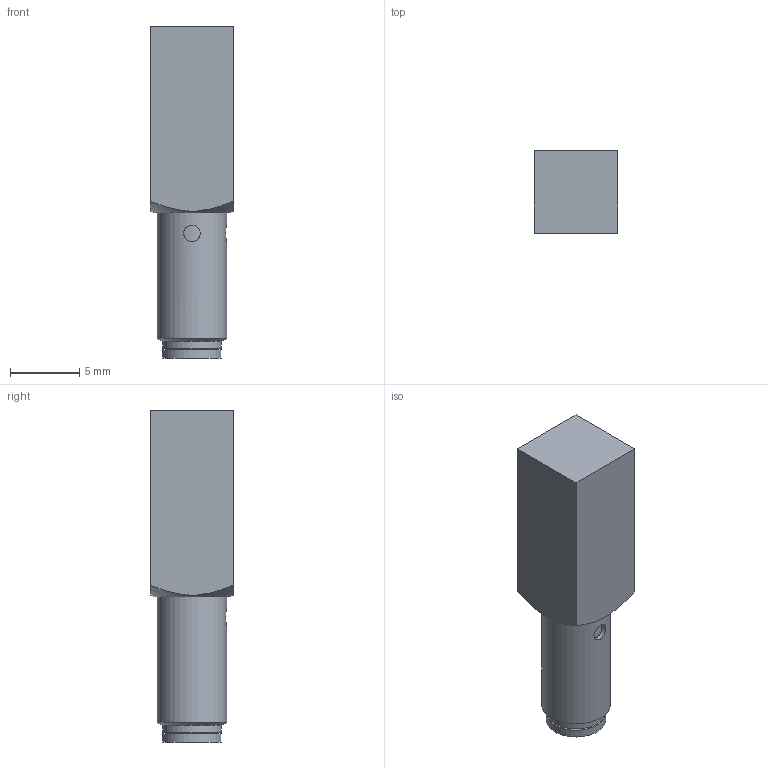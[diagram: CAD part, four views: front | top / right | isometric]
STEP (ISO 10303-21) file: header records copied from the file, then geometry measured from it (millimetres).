
FILE_DESCRIPTION( ( 'Unknown' ), '1' );
FILE_NAME( '//baumerholding.org/frauenfeld/bereich/BECH/Services/me_CAD/Solid Edge/Models/Dokumentationen/Induktiv/IxFx 06/Vereinfachte Modelle/Neutralformate/IFFM 06xxxA3_O1S05L.stp', 'Unknown', ( 'Unknown' ), ( 'Unknown' ), 'XStep 1.0', 'Unknown', ' ' );
FILE_SCHEMA( ( 'CONFIG_CONTROL_DESIGN' ) );
Length unit declared in the file: millimetre
Products named in the file (1): 145484
Bounding box: 6 x 6 x 24 mm (x, y, z)
Volume: 646.3 mm3; surface area: 718.9 mm2
Topology: 1 solids, 1 shells, 50 faces, 102 edges, 67 vertices
Faces by surface type: plane 20, cylinder 19, cone 5, bspline 5, torus 1
Full cylindrical faces by diameter (mm): 0.5 x4, 1.2 x2, 3.22 x1, 3.72 x1, 3.75 x1, 3.9 x1, 4 x1, 4.25 x1, 4.28 x1, 5 x1
Entity records: 1381 total; most frequent: CARTESIAN_POINT 442, DIRECTION 188, ORIENTED_EDGE 138, EDGE_LOOP 86, AXIS2_PLACEMENT_3D 85, FACE_OUTER_BOUND 69, EDGE_CURVE 69, VERTEX_POINT 57
